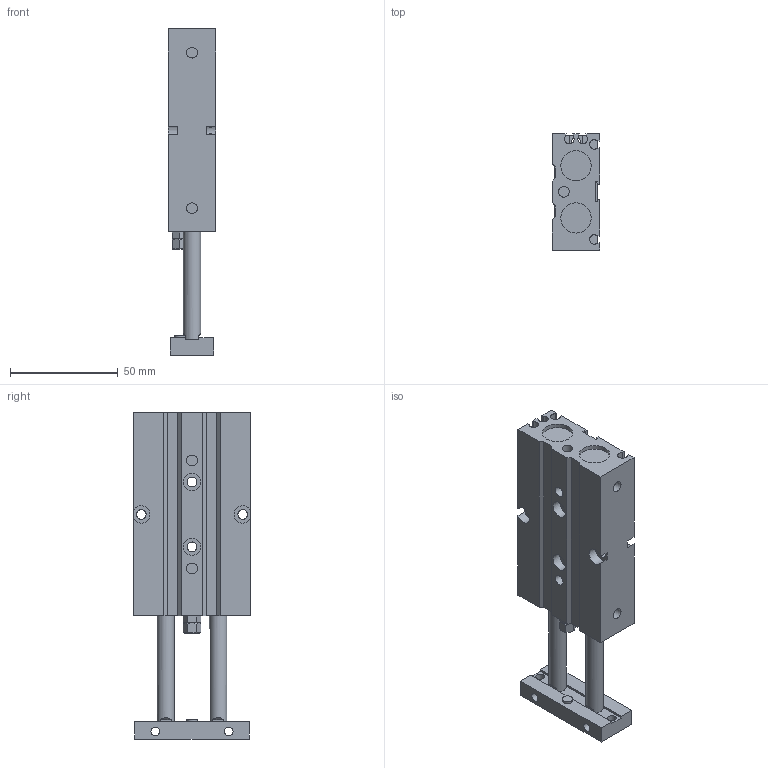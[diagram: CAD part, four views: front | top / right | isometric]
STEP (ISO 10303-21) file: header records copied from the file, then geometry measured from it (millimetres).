
FILE_DESCRIPTION((''),'2;1');
FILE_NAME('I:\3D電子目錄\氣缸\TD\TD16\TD16\TD16x40.stp','2007-08-06T09:39:21',('Administrator'),(''),'Autodesk Inventor 2008','Autodesk Inventor 2008','');
FILE_SCHEMA(('AUTOMOTIVE_DESIGN { 1 0 10303 214 1 1 1 1 }'));
Length unit declared in the file: millimetre
Products named in the file (1): TD16X40
Bounding box: 22 x 54 x 151 mm (x, y, z)
Volume: 110475.3 mm3; surface area: 29882.8 mm2
Topology: 1 solids, 3 shells, 179 faces, 465 edges, 304 vertices
Faces by surface type: plane 116, cylinder 42, bspline 12, cone 7, torus 2
Full cylindrical faces by diameter (mm): 4 x4, 4.5 x4, 5 x8, 6 x2, 7 x2, 8 x4, 14 x4
Entity records: 5819 total; most frequent: CARTESIAN_POINT 1627, ORIENTED_EDGE 824, DIRECTION 820, EDGE_CURVE 412, VERTEX_POINT 292, AXIS2_PLACEMENT_3D 274, VECTOR 272, LINE 272
